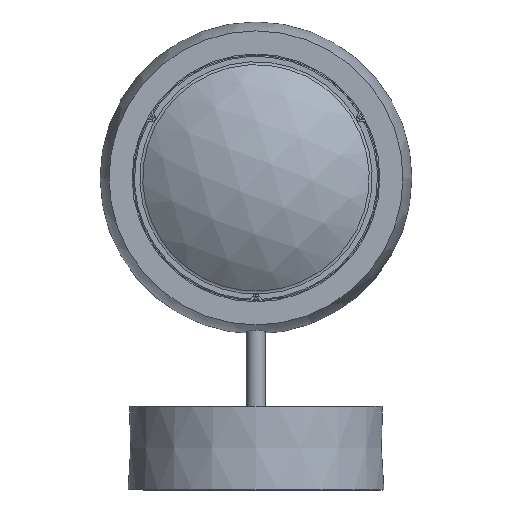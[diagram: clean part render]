
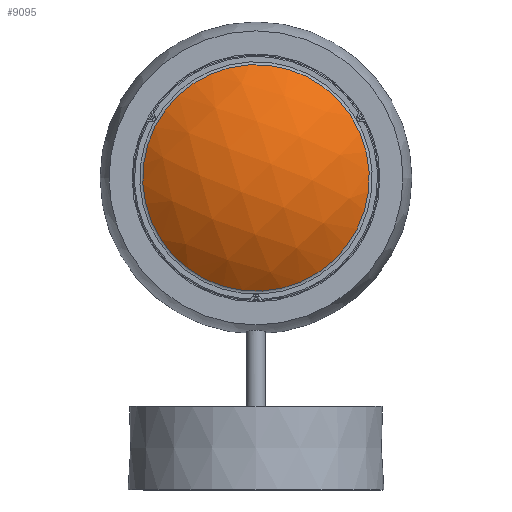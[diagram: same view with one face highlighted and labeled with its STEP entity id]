
A CAD part, front view. The second image highlights one B-rep face of the part: STEP entity #9095.
In plain terms, the highlighted spherical face has radius 78 mm.
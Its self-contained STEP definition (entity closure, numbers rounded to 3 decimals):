
#3395 = AXIS2_PLACEMENT_3D ( 'NONE', #20461, #24244, #6228 ) ;
#5209 = AXIS2_PLACEMENT_3D ( 'NONE', #40507, #8025, #22247 ) ;
#6228 = DIRECTION ( 'NONE',  ( -1., 0., 0. ) ) ;
#8025 = DIRECTION ( 'NONE',  ( 0., -1., 0. ) ) ;
#9095 = ADVANCED_FACE ( 'NONE', ( #13813 ), #31361, .T. ) ;
#9974 = ORIENTED_EDGE ( 'NONE', *, *, #27970, .F. ) ;
#11350 = VERTEX_POINT ( 'NONE', #39581 ) ;
#13813 = FACE_OUTER_BOUND ( 'NONE', #31214, .T. ) ;
#20461 = CARTESIAN_POINT ( 'NONE',  ( 0., -58., 0. ) ) ;
#22247 = DIRECTION ( 'NONE',  ( 0., 0., -1. ) ) ;
#24244 = DIRECTION ( 'NONE',  ( 0., 0., -1. ) ) ;
#27970 = EDGE_CURVE ( 'NONE', #11350, #11350, #41563, .T. ) ;
#31214 = EDGE_LOOP ( 'NONE', ( #9974 ) ) ;
#31361 = SPHERICAL_SURFACE ( 'NONE', #3395, 78. ) ;
#39581 = CARTESIAN_POINT ( 'NONE',  ( 0., 2.938, -48.689 ) ) ;
#40507 = CARTESIAN_POINT ( 'NONE',  ( 0., 2.938, 0. ) ) ;
#41563 = CIRCLE ( 'NONE', #5209, 48.689 ) ;
